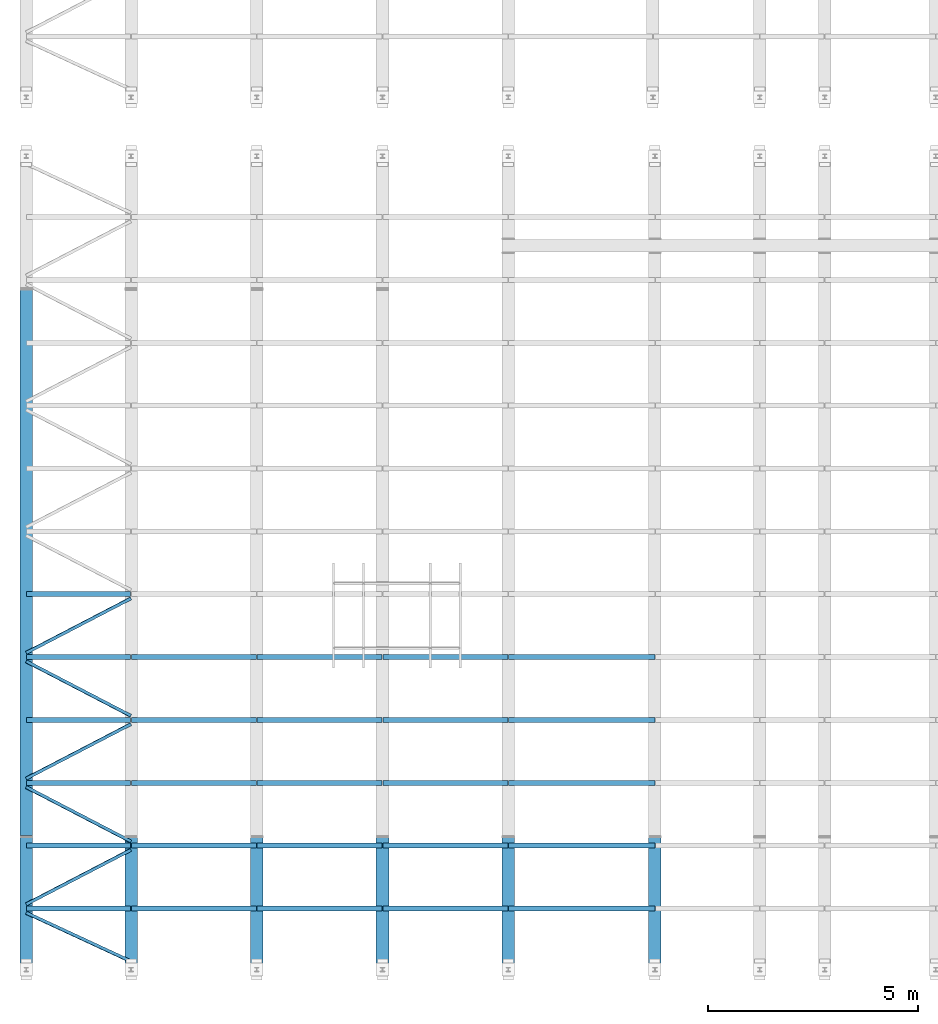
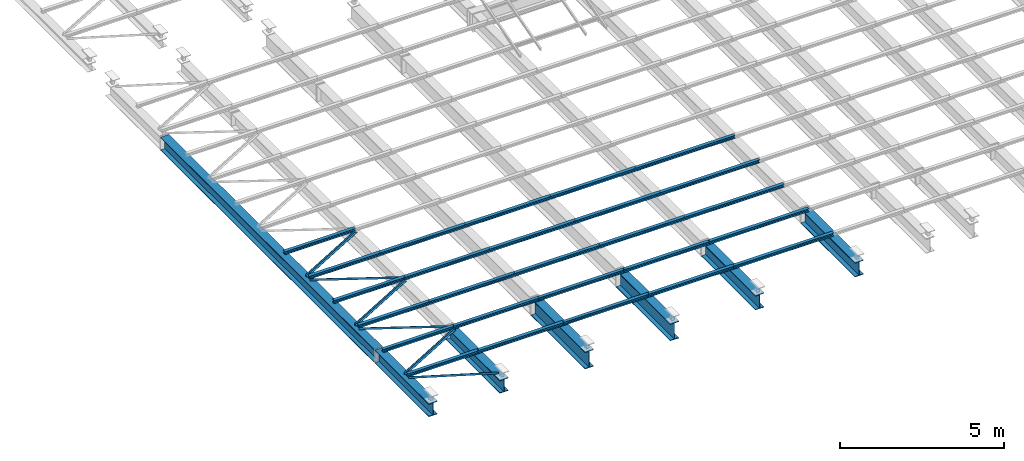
# One storey, part 36 of 139: 39 beams.
"""IFC2X3 building model written with IfcOpenShell, lengths in metres."""

from ifc_helpers import new_model, entity, si_unit, converted_unit, derived_unit, frame, origin, place, context, subcontext, project, spatial, polyline, outline, extrude, material, element, save


model = new_model("IFC2X3")

# Units and contexts
model_context = context("Model", 3, precision=1e-05, world=origin())
body_context = subcontext(model_context, "Body", "Model", "MODEL_VIEW")
ifc_project = project(units=[si_unit("LENGTHUNIT", "METRE"), si_unit("AREAUNIT", "SQUARE_METRE"), si_unit("VOLUMEUNIT", "CUBIC_METRE"), si_unit("MASSUNIT", "GRAM", prefix="KILO"), converted_unit("PLANEANGLEUNIT", "DEGREE", entity("IfcPlaneAngleMeasure", 0.0174532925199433), si_unit("PLANEANGLEUNIT", "RADIAN"), dimensions=[0, 0, 0, 0, 0, 0, 0]), derived_unit("THERMALTRANSMITTANCEUNIT", [(si_unit("POWERUNIT", "WATT"), 1), (si_unit("THERMODYNAMICTEMPERATUREUNIT", "KELVIN"), -1), (si_unit("LENGTHUNIT", "METRE"), -2)]), derived_unit("VOLUMETRICFLOWRATEUNIT", [(si_unit("LENGTHUNIT", "METRE"), 3), (converted_unit("TIMEUNIT", "hour", entity("IfcTimeMeasure", 3600.0), si_unit("TIMEUNIT", "SECOND"), dimensions=[0, 0, 1, 0, 0, 0, 0]), -1), (si_unit("LENGTHUNIT", "METRE"), -1)])], contexts=[model_context])

# Site, building, storey
site_placement = place(None, origin())
site = spatial("IfcSite", under=ifc_project, at=site_placement, Name="TWP_Speiseverteilzentrum SBW VZ II", CompositionType="ELEMENT")
building_placement = place(site_placement, origin())
building = spatial("IfcBuilding", under=site, at=building_placement, Name="Speiseverteilzentrum SBW VZ II", CompositionType="ELEMENT")
storey_placement = place(building_placement, frame((0.0, 0.0, 7.1307)))
storey = spatial("IfcBuildingStorey", under=building, at=storey_placement, Name="Wartung_FFB", CompositionType="ELEMENT", Elevation=7.1307)

# Beams
ifc_material_1 = material(Name="S235")
beam_1_placement = place(storey_placement, frame((10.5500000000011, 26.9020742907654, -0.435), z_axis=(0.0, 0.0, 1.0), x_axis=(-1.0, 0.0, 0.0)))
element("IfcBeam", 1, at=beam_1_placement, inside=storey, material=ifc_material_1, Name="Stahlträger", context=body_context, shape_type="SweptSolid", body=[
    extrude(outline(polyline([(-0.15, 0.245), (-0.15, 0.222), (-0.00599999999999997, 0.222), (-0.006, -0.222), (-0.15, -0.222), (-0.15, -0.245), (0.15, -0.245), (0.15, -0.222), (0.00600000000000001, -0.222), (0.00600000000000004, 0.222), (0.15, 0.222), (0.15, 0.245), (-0.15, 0.245)])), frame((0.0, 0.0, 0.0), z_axis=(0.0, 1.0, 0.0), x_axis=(-1.0, 0.0, 0.0)), (0.0, 0.0, 1.0), 13.014),
])
ifc_material_2 = material(Name="S235")
beam_2_placement = place(storey_placement, frame((10.5500000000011, 13.8380742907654, -0.435), z_axis=(0.0, 0.0, 1.0), x_axis=(-1.0, 0.0, 0.0)))
element("IfcBeam", 2, at=beam_2_placement, inside=storey, material=ifc_material_2, Name="Stahlträger", context=body_context, shape_type="SweptSolid", body=[
    extrude(outline(polyline([(-0.15, 0.245), (-0.15, 0.222), (-0.00599999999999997, 0.222), (-0.006, -0.222), (-0.15, -0.222), (-0.15, -0.245), (0.15, -0.245), (0.15, -0.222), (0.00600000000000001, -0.222), (0.00600000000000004, 0.222), (0.15, 0.222), (0.15, 0.245), (-0.15, 0.245)])), frame((0.0, 0.0, 0.0), z_axis=(0.0, 1.0, 0.0), x_axis=(-1.0, 0.0, 0.0)), (0.0, 0.0, 1.0), 3.29792570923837),
])
ifc_material_3 = material(Name="S235")
beam_3_placement = place(storey_placement, frame((13.0500000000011, 13.8380742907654, -0.435), z_axis=(0.0, 0.0, 1.0), x_axis=(-1.0, 0.0, 0.0)))
element("IfcBeam", 3, at=beam_3_placement, inside=storey, material=ifc_material_3, Name="Stahlträger", context=body_context, shape_type="SweptSolid", body=[
    extrude(outline(polyline([(-0.15, 0.245), (-0.15, 0.222), (-0.00599999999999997, 0.222), (-0.006, -0.222), (-0.15, -0.222), (-0.15, -0.245), (0.15, -0.245), (0.15, -0.222), (0.00600000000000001, -0.222), (0.00600000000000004, 0.222), (0.15, 0.222), (0.15, 0.245), (-0.15, 0.245)])), frame((0.0, 0.0, 0.0), z_axis=(0.0, 1.0, 0.0), x_axis=(-1.0, 0.0, 0.0)), (0.0, 0.0, 1.0), 3.29792570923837),
])
ifc_material_4 = material(Name="S235")
beam_4_placement = place(storey_placement, frame((16.0500000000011, 13.8380742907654, -0.51), z_axis=(0.0, 0.0, 1.0), x_axis=(-1.0, 0.0, 0.0)))
element("IfcBeam", 4, at=beam_4_placement, inside=storey, material=ifc_material_4, Name="Stahlträger", context=body_context, shape_type="SweptSolid", body=[
    extrude(outline(polyline([(-0.15, 0.32), (-0.15, 0.294), (-0.00675000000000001, 0.294), (-0.00675000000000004, -0.294), (-0.15, -0.294), (-0.15, -0.32), (0.15, -0.32), (0.15, -0.294), (0.00674999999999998, -0.294), (0.00675000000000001, 0.294), (0.15, 0.294), (0.15, 0.32), (-0.15, 0.32)])), frame((0.0, 0.0, 0.0), z_axis=(0.0, 1.0, 0.0), x_axis=(-1.0, 0.0, 0.0)), (0.0, 0.0, 1.0), 3.29792570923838),
])
ifc_material_5 = material(Name="S235")
beam_5_placement = place(storey_placement, frame((19.0500000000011, 13.8380742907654, -0.51), z_axis=(0.0, 0.0, 1.0), x_axis=(-1.0, 0.0, 0.0)))
element("IfcBeam", 5, at=beam_5_placement, inside=storey, material=ifc_material_5, Name="Stahlträger", context=body_context, shape_type="SweptSolid", body=[
    extrude(outline(polyline([(-0.15, 0.32), (-0.15, 0.294), (-0.00675000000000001, 0.294), (-0.00675000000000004, -0.294), (-0.15, -0.294), (-0.15, -0.32), (0.15, -0.32), (0.15, -0.294), (0.00674999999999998, -0.294), (0.00675000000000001, 0.294), (0.15, 0.294), (0.15, 0.32), (-0.15, 0.32)])), frame((0.0, 0.0, 0.0), z_axis=(0.0, 1.0, 0.0), x_axis=(-1.0, 0.0, 0.0)), (0.0, 0.0, 1.0), 3.29792570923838),
])
ifc_material_6 = material(Name="S235")
beam_6_placement = place(storey_placement, frame((25.5500000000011, 13.8380742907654, -0.46), z_axis=(0.0, 0.0, 1.0), x_axis=(-1.0, 0.0, 0.0)))
element("IfcBeam", 6, at=beam_6_placement, inside=storey, material=ifc_material_6, Name="Stahlträger", context=body_context, shape_type="SweptSolid", body=[
    extrude(outline(polyline([(-0.15, 0.27), (-0.15, 0.246), (-0.0062499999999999, 0.246), (-0.00624999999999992, -0.246), (-0.15, -0.246), (-0.15, -0.27), (0.15, -0.27), (0.15, -0.246), (0.00625000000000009, -0.246), (0.00625000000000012, 0.246), (0.15, 0.246), (0.15, 0.27), (-0.15, 0.27)])), frame((0.0, 0.0, 0.0), z_axis=(0.0, 1.0, 0.0), x_axis=(-1.0, 0.0, 0.0)), (0.0, 0.0, 1.0), 3.29792570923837),
])
ifc_material_7 = material(Name="S235")
beam_7_placement = place(storey_placement, frame((22.0500000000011, 13.8380742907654, -0.46), z_axis=(0.0, 0.0, 1.0), x_axis=(-1.0, 0.0, 0.0)))
element("IfcBeam", 7, at=beam_7_placement, inside=storey, material=ifc_material_7, Name="Stahlträger", context=body_context, shape_type="SweptSolid", body=[
    extrude(outline(polyline([(-0.15, 0.27), (-0.15, 0.246), (-0.0062499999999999, 0.246), (-0.00624999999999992, -0.246), (-0.15, -0.246), (-0.15, -0.27), (0.15, -0.27), (0.15, -0.246), (0.00625000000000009, -0.246), (0.00625000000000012, 0.246), (0.15, 0.246), (0.15, 0.27), (-0.15, 0.27)])), frame((0.0, 0.0, 0.0), z_axis=(0.0, 1.0, 0.0), x_axis=(-1.0, 0.0, 0.0)), (0.0, 0.0, 1.0), 3.29792570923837),
])
ifc_material_8 = material(Name="S235")
beam_8_placement = place(storey_placement, frame((10.5600000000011, 19.6450742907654, -0.133), z_axis=(0.0, 0.0, 1.0), x_axis=(0.0, -1.0, 0.0)))
element("IfcBeam", 8, at=beam_8_placement, inside=storey, material=ifc_material_8, Name="Nebenträger", context=body_context, shape_type="SweptSolid", body=[
    extrude(outline(polyline([(-0.06, 0.0570000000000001), (-0.06, 0.0490000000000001), (-0.00249999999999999, 0.0490000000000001), (-0.0025, -0.0489999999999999), (-0.06, -0.0489999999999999), (-0.06, -0.0569999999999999), (0.06, -0.0569999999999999), (0.06, -0.0489999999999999), (0.0025, -0.0489999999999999), (0.00250000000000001, 0.0490000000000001), (0.06, 0.0490000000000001), (0.06, 0.0570000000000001), (-0.06, 0.0570000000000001)])), frame((0.0, 0.0, 0.0), z_axis=(0.0, 1.0, 0.0), x_axis=(-1.0, 0.0, 0.0)), (0.0, 0.0, 1.0), 2.48000000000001),
])
ifc_material_9 = material(Name="S235")
beam_9_placement = place(storey_placement, frame((13.0600000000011, 18.1450742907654, -0.133), z_axis=(0.0, 0.0, 1.0), x_axis=(0.0, -1.0, 0.0)))
element("IfcBeam", 9, at=beam_9_placement, inside=storey, material=ifc_material_9, Name="Nebenträger", context=body_context, shape_type="SweptSolid", body=[
    extrude(outline(polyline([(-0.06, 0.0570000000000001), (-0.06, 0.0490000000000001), (-0.00249999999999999, 0.0490000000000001), (-0.0025, -0.0489999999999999), (-0.06, -0.0489999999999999), (-0.06, -0.0569999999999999), (0.06, -0.0569999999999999), (0.06, -0.0489999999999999), (0.0025, -0.0489999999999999), (0.00250000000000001, 0.0490000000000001), (0.06, 0.0490000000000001), (0.06, 0.0570000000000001), (-0.06, 0.0570000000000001)])), frame((0.0, 0.0, 0.0), z_axis=(0.0, 1.0, 0.0), x_axis=(-1.0, 0.0, 0.0)), (0.0, 0.0, 1.0), 2.98),
])
ifc_material_10 = material(Name="S235")
beam_10_placement = place(storey_placement, frame((16.0600000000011, 18.1450742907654, -0.133), z_axis=(0.0, 0.0, 1.0), x_axis=(0.0, -1.0, 0.0)))
element("IfcBeam", 10, at=beam_10_placement, inside=storey, material=ifc_material_10, Name="Nebenträger", context=body_context, shape_type="SweptSolid", body=[
    extrude(outline(polyline([(-0.06, 0.0570000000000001), (-0.06, 0.0490000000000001), (-0.00249999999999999, 0.0490000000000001), (-0.0025, -0.0489999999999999), (-0.06, -0.0489999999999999), (-0.06, -0.0569999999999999), (0.06, -0.0569999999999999), (0.06, -0.0489999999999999), (0.0025, -0.0489999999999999), (0.00250000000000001, 0.0490000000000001), (0.06, 0.0490000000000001), (0.06, 0.0570000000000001), (-0.06, 0.0570000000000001)])), frame((0.0, 0.0, 0.0), z_axis=(0.0, 1.0, 0.0), x_axis=(-1.0, 0.0, 0.0)), (0.0, 0.0, 1.0), 2.98),
])
ifc_material_11 = material(Name="S235")
beam_11_placement = place(storey_placement, frame((19.0600000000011, 18.1450742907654, -0.133), z_axis=(0.0, 0.0, 1.0), x_axis=(0.0, -1.0, 0.0)))
element("IfcBeam", 11, at=beam_11_placement, inside=storey, material=ifc_material_11, Name="Nebenträger", context=body_context, shape_type="SweptSolid", body=[
    extrude(outline(polyline([(-0.06, 0.0570000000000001), (-0.06, 0.0490000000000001), (-0.00249999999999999, 0.0490000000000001), (-0.0025, -0.0489999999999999), (-0.06, -0.0489999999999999), (-0.06, -0.0569999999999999), (0.06, -0.0569999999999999), (0.06, -0.0489999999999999), (0.0025, -0.0489999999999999), (0.00250000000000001, 0.0490000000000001), (0.06, 0.0490000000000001), (0.06, 0.0570000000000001), (-0.06, 0.0570000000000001)])), frame((0.0, 0.0, 0.0), z_axis=(0.0, 1.0, 0.0), x_axis=(-1.0, 0.0, 0.0)), (0.0, 0.0, 1.0), 2.98),
])
ifc_material_12 = material(Name="S235")
beam_12_placement = place(storey_placement, frame((10.5600000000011, 18.1450742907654, -0.133), z_axis=(0.0, 0.0, 1.0), x_axis=(0.0, -1.0, 0.0)))
element("IfcBeam", 12, at=beam_12_placement, inside=storey, material=ifc_material_12, Name="Nebenträger", context=body_context, shape_type="SweptSolid", body=[
    extrude(outline(polyline([(-0.06, 0.0570000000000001), (-0.06, 0.0490000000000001), (-0.00249999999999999, 0.0490000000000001), (-0.0025, -0.0489999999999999), (-0.06, -0.0489999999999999), (-0.06, -0.0569999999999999), (0.06, -0.0569999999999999), (0.06, -0.0489999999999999), (0.0025, -0.0489999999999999), (0.00250000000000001, 0.0490000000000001), (0.06, 0.0490000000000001), (0.06, 0.0570000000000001), (-0.06, 0.0570000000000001)])), frame((0.0, 0.0, 0.0), z_axis=(0.0, 1.0, 0.0), x_axis=(-1.0, 0.0, 0.0)), (0.0, 0.0, 1.0), 2.48000000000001),
])
ifc_material_13 = material(Name="S235")
beam_13_placement = place(storey_placement, frame((13.0600000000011, 16.6450742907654, -0.133), z_axis=(0.0, 0.0, 1.0), x_axis=(0.0, -1.0, 0.0)))
element("IfcBeam", 13, at=beam_13_placement, inside=storey, material=ifc_material_13, Name="Nebenträger", context=body_context, shape_type="SweptSolid", body=[
    extrude(outline(polyline([(-0.06, 0.0570000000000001), (-0.06, 0.0490000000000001), (-0.00249999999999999, 0.0490000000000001), (-0.0025, -0.0489999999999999), (-0.06, -0.0489999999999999), (-0.06, -0.0569999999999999), (0.06, -0.0569999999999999), (0.06, -0.0489999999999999), (0.0025, -0.0489999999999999), (0.00250000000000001, 0.0490000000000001), (0.06, 0.0490000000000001), (0.06, 0.0570000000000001), (-0.06, 0.0570000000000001)])), frame((0.0, 0.0, 0.0), z_axis=(0.0, 1.0, 0.0), x_axis=(-1.0, 0.0, 0.0)), (0.0, 0.0, 1.0), 2.98),
])
ifc_material_14 = material(Name="S235")
beam_14_placement = place(storey_placement, frame((16.0600000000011, 16.6450742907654, -0.133), z_axis=(0.0, 0.0, 1.0), x_axis=(0.0, -1.0, 0.0)))
element("IfcBeam", 14, at=beam_14_placement, inside=storey, material=ifc_material_14, Name="Nebenträger", context=body_context, shape_type="SweptSolid", body=[
    extrude(outline(polyline([(-0.06, 0.0570000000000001), (-0.06, 0.0490000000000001), (-0.00249999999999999, 0.0490000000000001), (-0.0025, -0.0489999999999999), (-0.06, -0.0489999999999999), (-0.06, -0.0569999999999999), (0.06, -0.0569999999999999), (0.06, -0.0489999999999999), (0.0025, -0.0489999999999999), (0.00250000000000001, 0.0490000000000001), (0.06, 0.0490000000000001), (0.06, 0.0570000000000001), (-0.06, 0.0570000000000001)])), frame((0.0, 0.0, 0.0), z_axis=(0.0, 1.0, 0.0), x_axis=(-1.0, 0.0, 0.0)), (0.0, 0.0, 1.0), 2.98),
])
ifc_material_15 = material(Name="S235")
beam_15_placement = place(storey_placement, frame((19.0600000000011, 16.6450742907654, -0.133), z_axis=(0.0, 0.0, 1.0), x_axis=(0.0, -1.0, 0.0)))
element("IfcBeam", 15, at=beam_15_placement, inside=storey, material=ifc_material_15, Name="Nebenträger", context=body_context, shape_type="SweptSolid", body=[
    extrude(outline(polyline([(-0.06, 0.0570000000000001), (-0.06, 0.0490000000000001), (-0.00249999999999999, 0.0490000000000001), (-0.0025, -0.0489999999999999), (-0.06, -0.0489999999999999), (-0.06, -0.0569999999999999), (0.06, -0.0569999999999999), (0.06, -0.0489999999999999), (0.0025, -0.0489999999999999), (0.00250000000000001, 0.0490000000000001), (0.06, 0.0490000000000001), (0.06, 0.0570000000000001), (-0.06, 0.0570000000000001)])), frame((0.0, 0.0, 0.0), z_axis=(0.0, 1.0, 0.0), x_axis=(-1.0, 0.0, 0.0)), (0.0, 0.0, 1.0), 2.98),
])
ifc_material_16 = material(Name="S235")
beam_16_placement = place(storey_placement, frame((10.5600000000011, 16.6450742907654, -0.133), z_axis=(0.0, 0.0, 1.0), x_axis=(0.0, -1.0, 0.0)))
element("IfcBeam", 16, at=beam_16_placement, inside=storey, material=ifc_material_16, Name="Nebenträger", context=body_context, shape_type="SweptSolid", body=[
    extrude(outline(polyline([(-0.06, 0.0570000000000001), (-0.06, 0.0490000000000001), (-0.00249999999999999, 0.0490000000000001), (-0.0025, -0.0489999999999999), (-0.06, -0.0489999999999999), (-0.06, -0.0569999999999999), (0.06, -0.0569999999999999), (0.06, -0.0489999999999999), (0.0025, -0.0489999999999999), (0.00250000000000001, 0.0490000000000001), (0.06, 0.0490000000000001), (0.06, 0.0570000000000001), (-0.06, 0.0570000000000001)])), frame((0.0, 0.0, 0.0), z_axis=(0.0, 1.0, 0.0), x_axis=(-1.0, 0.0, 0.0)), (0.0, 0.0, 1.0), 2.48000000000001),
])
ifc_material_17 = material(Name="S235")
beam_17_placement = place(storey_placement, frame((13.0600000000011, 15.1450742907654, -0.133), z_axis=(0.0, 0.0, 1.0), x_axis=(0.0, -1.0, 0.0)))
element("IfcBeam", 17, at=beam_17_placement, inside=storey, material=ifc_material_17, Name="Nebenträger", context=body_context, shape_type="SweptSolid", body=[
    extrude(outline(polyline([(-0.06, 0.0570000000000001), (-0.06, 0.0490000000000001), (-0.00249999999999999, 0.0490000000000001), (-0.0025, -0.0489999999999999), (-0.06, -0.0489999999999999), (-0.06, -0.0569999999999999), (0.06, -0.0569999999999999), (0.06, -0.0489999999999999), (0.0025, -0.0489999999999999), (0.00250000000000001, 0.0490000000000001), (0.06, 0.0490000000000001), (0.06, 0.0570000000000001), (-0.06, 0.0570000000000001)])), frame((0.0, 0.0, 0.0), z_axis=(0.0, 1.0, 0.0), x_axis=(-1.0, 0.0, 0.0)), (0.0, 0.0, 1.0), 2.98),
])
ifc_material_18 = material(Name="S235")
beam_18_placement = place(storey_placement, frame((16.0600000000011, 15.1450742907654, -0.133), z_axis=(0.0, 0.0, 1.0), x_axis=(0.0, -1.0, 0.0)))
element("IfcBeam", 18, at=beam_18_placement, inside=storey, material=ifc_material_18, Name="Nebenträger", context=body_context, shape_type="SweptSolid", body=[
    extrude(outline(polyline([(-0.06, 0.0570000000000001), (-0.06, 0.0490000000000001), (-0.00249999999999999, 0.0490000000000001), (-0.0025, -0.0489999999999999), (-0.06, -0.0489999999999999), (-0.06, -0.0569999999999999), (0.06, -0.0569999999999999), (0.06, -0.0489999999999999), (0.0025, -0.0489999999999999), (0.00250000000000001, 0.0490000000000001), (0.06, 0.0490000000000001), (0.06, 0.0570000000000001), (-0.06, 0.0570000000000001)])), frame((0.0, 0.0, 0.0), z_axis=(0.0, 1.0, 0.0), x_axis=(-1.0, 0.0, 0.0)), (0.0, 0.0, 1.0), 2.98),
])
ifc_material_19 = material(Name="S235")
beam_19_placement = place(storey_placement, frame((19.0600000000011, 15.1450742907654, -0.133), z_axis=(0.0, 0.0, 1.0), x_axis=(0.0, -1.0, 0.0)))
element("IfcBeam", 19, at=beam_19_placement, inside=storey, material=ifc_material_19, Name="Nebenträger", context=body_context, shape_type="SweptSolid", body=[
    extrude(outline(polyline([(-0.06, 0.0570000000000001), (-0.06, 0.0490000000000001), (-0.00249999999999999, 0.0490000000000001), (-0.0025, -0.0489999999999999), (-0.06, -0.0489999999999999), (-0.06, -0.0569999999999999), (0.06, -0.0569999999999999), (0.06, -0.0489999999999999), (0.0025, -0.0489999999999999), (0.00250000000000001, 0.0490000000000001), (0.06, 0.0490000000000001), (0.06, 0.0570000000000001), (-0.06, 0.0570000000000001)])), frame((0.0, 0.0, 0.0), z_axis=(0.0, 1.0, 0.0), x_axis=(-1.0, 0.0, 0.0)), (0.0, 0.0, 1.0), 2.98),
])
ifc_material_20 = material(Name="S235")
beam_20_placement = place(storey_placement, frame((10.5600000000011, 15.1450742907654, -0.133), z_axis=(0.0, 0.0, 1.0), x_axis=(0.0, -1.0, 0.0)))
element("IfcBeam", 20, at=beam_20_placement, inside=storey, material=ifc_material_20, Name="Nebenträger", context=body_context, shape_type="SweptSolid", body=[
    extrude(outline(polyline([(-0.06, 0.0570000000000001), (-0.06, 0.0490000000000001), (-0.00249999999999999, 0.0490000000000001), (-0.0025, -0.0489999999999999), (-0.06, -0.0489999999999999), (-0.06, -0.0569999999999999), (0.06, -0.0569999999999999), (0.06, -0.0489999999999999), (0.0025, -0.0489999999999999), (0.00250000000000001, 0.0490000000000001), (0.06, 0.0490000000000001), (0.06, 0.0570000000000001), (-0.06, 0.0570000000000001)])), frame((0.0, 0.0, 0.0), z_axis=(0.0, 1.0, 0.0), x_axis=(-1.0, 0.0, 0.0)), (0.0, 0.0, 1.0), 2.48000000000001),
])
ifc_material_21 = material(Name="S235")
beam_21_placement = place(storey_placement, frame((13.0600000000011, 13.6450742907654, -0.133), z_axis=(0.0, 0.0, 1.0), x_axis=(0.0, -1.0, 0.0)))
element("IfcBeam", 21, at=beam_21_placement, inside=storey, material=ifc_material_21, Name="Nebenträger", context=body_context, shape_type="SweptSolid", body=[
    extrude(outline(polyline([(-0.06, 0.0570000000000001), (-0.06, 0.0490000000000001), (-0.00249999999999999, 0.0490000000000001), (-0.0025, -0.0489999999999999), (-0.06, -0.0489999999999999), (-0.06, -0.0569999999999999), (0.06, -0.0569999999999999), (0.06, -0.0489999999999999), (0.0025, -0.0489999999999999), (0.00250000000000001, 0.0490000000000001), (0.06, 0.0490000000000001), (0.06, 0.0570000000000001), (-0.06, 0.0570000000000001)])), frame((0.0, 0.0, 0.0), z_axis=(0.0, 1.0, 0.0), x_axis=(-1.0, 0.0, 0.0)), (0.0, 0.0, 1.0), 2.98),
])
ifc_material_22 = material(Name="S235")
beam_22_placement = place(storey_placement, frame((16.0600000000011, 13.6450742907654, -0.133), z_axis=(0.0, 0.0, 1.0), x_axis=(0.0, -1.0, 0.0)))
element("IfcBeam", 22, at=beam_22_placement, inside=storey, material=ifc_material_22, Name="Nebenträger", context=body_context, shape_type="SweptSolid", body=[
    extrude(outline(polyline([(-0.06, 0.0570000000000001), (-0.06, 0.0490000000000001), (-0.00249999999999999, 0.0490000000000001), (-0.0025, -0.0489999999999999), (-0.06, -0.0489999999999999), (-0.06, -0.0569999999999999), (0.06, -0.0569999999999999), (0.06, -0.0489999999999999), (0.0025, -0.0489999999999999), (0.00250000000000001, 0.0490000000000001), (0.06, 0.0490000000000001), (0.06, 0.0570000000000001), (-0.06, 0.0570000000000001)])), frame((0.0, 0.0, 0.0), z_axis=(0.0, 1.0, 0.0), x_axis=(-1.0, 0.0, 0.0)), (0.0, 0.0, 1.0), 2.98),
])
ifc_material_23 = material(Name="S235")
beam_23_placement = place(storey_placement, frame((19.0600000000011, 13.6450742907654, -0.133), z_axis=(0.0, 0.0, 1.0), x_axis=(0.0, -1.0, 0.0)))
element("IfcBeam", 23, at=beam_23_placement, inside=storey, material=ifc_material_23, Name="Nebenträger", context=body_context, shape_type="SweptSolid", body=[
    extrude(outline(polyline([(-0.06, 0.0570000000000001), (-0.06, 0.0490000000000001), (-0.00249999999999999, 0.0490000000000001), (-0.0025, -0.0489999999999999), (-0.06, -0.0489999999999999), (-0.06, -0.0569999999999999), (0.06, -0.0569999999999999), (0.06, -0.0489999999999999), (0.0025, -0.0489999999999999), (0.00250000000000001, 0.0490000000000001), (0.06, 0.0490000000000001), (0.06, 0.0570000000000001), (-0.06, 0.0570000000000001)])), frame((0.0, 0.0, 0.0), z_axis=(0.0, 1.0, 0.0), x_axis=(-1.0, 0.0, 0.0)), (0.0, 0.0, 1.0), 2.98),
])
ifc_material_24 = material(Name="S235")
beam_24_placement = place(storey_placement, frame((10.5600000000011, 13.6450742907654, -0.133), z_axis=(0.0, 0.0, 1.0), x_axis=(0.0, -1.0, 0.0)))
element("IfcBeam", 24, at=beam_24_placement, inside=storey, material=ifc_material_24, Name="Nebenträger", context=body_context, shape_type="SweptSolid", body=[
    extrude(outline(polyline([(-0.06, 0.0570000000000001), (-0.06, 0.0490000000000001), (-0.00249999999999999, 0.0490000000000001), (-0.0025, -0.0489999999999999), (-0.06, -0.0489999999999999), (-0.06, -0.0569999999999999), (0.06, -0.0569999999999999), (0.06, -0.0489999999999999), (0.0025, -0.0489999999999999), (0.00250000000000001, 0.0490000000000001), (0.06, 0.0490000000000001), (0.06, 0.0570000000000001), (-0.06, 0.0570000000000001)])), frame((0.0, 0.0, 0.0), z_axis=(0.0, 1.0, 0.0), x_axis=(-1.0, 0.0, 0.0)), (0.0, 0.0, 1.0), 2.48000000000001),
])
ifc_material_25 = material(Name="S235")
beam_25_placement = place(storey_placement, frame((13.0600000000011, 12.1450742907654, -0.133), z_axis=(0.0, 0.0, 1.0), x_axis=(0.0, -1.0, 0.0)))
element("IfcBeam", 25, at=beam_25_placement, inside=storey, material=ifc_material_25, Name="Nebenträger", context=body_context, shape_type="SweptSolid", body=[
    extrude(outline(polyline([(-0.06, 0.0570000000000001), (-0.06, 0.0490000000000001), (-0.00249999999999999, 0.0490000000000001), (-0.0025, -0.0489999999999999), (-0.06, -0.0489999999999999), (-0.06, -0.0569999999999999), (0.06, -0.0569999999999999), (0.06, -0.0489999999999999), (0.0025, -0.0489999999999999), (0.00250000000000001, 0.0490000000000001), (0.06, 0.0490000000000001), (0.06, 0.0570000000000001), (-0.06, 0.0570000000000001)])), frame((0.0, 0.0, 0.0), z_axis=(0.0, 1.0, 0.0), x_axis=(-1.0, 0.0, 0.0)), (0.0, 0.0, 1.0), 2.98),
])
ifc_material_26 = material(Name="S235")
beam_26_placement = place(storey_placement, frame((16.0600000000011, 12.1450742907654, -0.133), z_axis=(0.0, 0.0, 1.0), x_axis=(0.0, -1.0, 0.0)))
element("IfcBeam", 26, at=beam_26_placement, inside=storey, material=ifc_material_26, Name="Nebenträger", context=body_context, shape_type="SweptSolid", body=[
    extrude(outline(polyline([(-0.06, 0.0570000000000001), (-0.06, 0.0490000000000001), (-0.00249999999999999, 0.0490000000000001), (-0.0025, -0.0489999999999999), (-0.06, -0.0489999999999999), (-0.06, -0.0569999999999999), (0.06, -0.0569999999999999), (0.06, -0.0489999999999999), (0.0025, -0.0489999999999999), (0.00250000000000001, 0.0490000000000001), (0.06, 0.0490000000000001), (0.06, 0.0570000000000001), (-0.06, 0.0570000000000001)])), frame((0.0, 0.0, 0.0), z_axis=(0.0, 1.0, 0.0), x_axis=(-1.0, 0.0, 0.0)), (0.0, 0.0, 1.0), 2.98),
])
ifc_material_27 = material(Name="S235")
beam_27_placement = place(storey_placement, frame((19.0600000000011, 12.1450742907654, -0.133), z_axis=(0.0, 0.0, 1.0), x_axis=(0.0, -1.0, 0.0)))
element("IfcBeam", 27, at=beam_27_placement, inside=storey, material=ifc_material_27, Name="Nebenträger", context=body_context, shape_type="SweptSolid", body=[
    extrude(outline(polyline([(-0.06, 0.0570000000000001), (-0.06, 0.0490000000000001), (-0.00249999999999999, 0.0490000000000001), (-0.0025, -0.0489999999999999), (-0.06, -0.0489999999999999), (-0.06, -0.0569999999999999), (0.06, -0.0569999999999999), (0.06, -0.0489999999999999), (0.0025, -0.0489999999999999), (0.00250000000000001, 0.0490000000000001), (0.06, 0.0490000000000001), (0.06, 0.0570000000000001), (-0.06, 0.0570000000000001)])), frame((0.0, 0.0, 0.0), z_axis=(0.0, 1.0, 0.0), x_axis=(-1.0, 0.0, 0.0)), (0.0, 0.0, 1.0), 2.98),
])
ifc_material_28 = material(Name="S235")
beam_28_placement = place(storey_placement, frame((10.5600000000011, 12.1450742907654, -0.133), z_axis=(0.0, 0.0, 1.0), x_axis=(0.0, -1.0, 0.0)))
element("IfcBeam", 28, at=beam_28_placement, inside=storey, material=ifc_material_28, Name="Nebenträger", context=body_context, shape_type="SweptSolid", body=[
    extrude(outline(polyline([(-0.06, 0.0570000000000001), (-0.06, 0.0490000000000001), (-0.00249999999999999, 0.0490000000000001), (-0.0025, -0.0489999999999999), (-0.06, -0.0489999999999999), (-0.06, -0.0569999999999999), (0.06, -0.0569999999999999), (0.06, -0.0489999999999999), (0.0025, -0.0489999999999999), (0.00250000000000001, 0.0490000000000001), (0.06, 0.0490000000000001), (0.06, 0.0570000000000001), (-0.06, 0.0570000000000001)])), frame((0.0, 0.0, 0.0), z_axis=(0.0, 1.0, 0.0), x_axis=(-1.0, 0.0, 0.0)), (0.0, 0.0, 1.0), 2.48000000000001),
])
ifc_material_29 = material(Name="S235")
beam_29_placement = place(storey_placement, frame((22.0600000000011, 18.1450742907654, -0.133), z_axis=(0.0, 0.0, 1.0), x_axis=(0.0, -1.0, 0.0)))
element("IfcBeam", 29, at=beam_29_placement, inside=storey, material=ifc_material_29, Name="Nebenträger", context=body_context, shape_type="SweptSolid", body=[
    extrude(outline(polyline([(-0.06, 0.0570000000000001), (-0.06, 0.0490000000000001), (-0.00249999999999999, 0.0490000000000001), (-0.0025, -0.0489999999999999), (-0.06, -0.0489999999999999), (-0.06, -0.0569999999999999), (0.06, -0.0569999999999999), (0.06, -0.0489999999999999), (0.0025, -0.0489999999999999), (0.00250000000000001, 0.0490000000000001), (0.06, 0.0490000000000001), (0.06, 0.0570000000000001), (-0.06, 0.0570000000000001)])), frame((0.0, 0.0, 0.0), z_axis=(0.0, 1.0, 0.0), x_axis=(-1.0, 0.0, 0.0)), (0.0, 0.0, 1.0), 3.48625),
])
ifc_material_30 = material(Name="S235")
beam_30_placement = place(storey_placement, frame((22.0600000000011, 16.6450742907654, -0.133), z_axis=(0.0, 0.0, 1.0), x_axis=(0.0, -1.0, 0.0)))
element("IfcBeam", 30, at=beam_30_placement, inside=storey, material=ifc_material_30, Name="Nebenträger", context=body_context, shape_type="SweptSolid", body=[
    extrude(outline(polyline([(-0.06, 0.0570000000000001), (-0.06, 0.0490000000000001), (-0.00249999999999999, 0.0490000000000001), (-0.0025, -0.0489999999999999), (-0.06, -0.0489999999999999), (-0.06, -0.0569999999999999), (0.06, -0.0569999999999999), (0.06, -0.0489999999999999), (0.0025, -0.0489999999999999), (0.00250000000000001, 0.0490000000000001), (0.06, 0.0490000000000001), (0.06, 0.0570000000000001), (-0.06, 0.0570000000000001)])), frame((0.0, 0.0, 0.0), z_axis=(0.0, 1.0, 0.0), x_axis=(-1.0, 0.0, 0.0)), (0.0, 0.0, 1.0), 3.48625),
])
ifc_material_31 = material(Name="S235")
beam_31_placement = place(storey_placement, frame((22.0600000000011, 15.1450742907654, -0.133), z_axis=(0.0, 0.0, 1.0), x_axis=(0.0, -1.0, 0.0)))
element("IfcBeam", 31, at=beam_31_placement, inside=storey, material=ifc_material_31, Name="Nebenträger", context=body_context, shape_type="SweptSolid", body=[
    extrude(outline(polyline([(-0.06, 0.0570000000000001), (-0.06, 0.0490000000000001), (-0.00249999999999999, 0.0490000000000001), (-0.0025, -0.0489999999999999), (-0.06, -0.0489999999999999), (-0.06, -0.0569999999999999), (0.06, -0.0569999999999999), (0.06, -0.0489999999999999), (0.0025, -0.0489999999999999), (0.00250000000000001, 0.0490000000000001), (0.06, 0.0490000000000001), (0.06, 0.0570000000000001), (-0.06, 0.0570000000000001)])), frame((0.0, 0.0, 0.0), z_axis=(0.0, 1.0, 0.0), x_axis=(-1.0, 0.0, 0.0)), (0.0, 0.0, 1.0), 3.48625),
])
ifc_material_32 = material(Name="S235")
beam_32_placement = place(storey_placement, frame((22.0600000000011, 13.6450742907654, -0.133), z_axis=(0.0, 0.0, 1.0), x_axis=(0.0, -1.0, 0.0)))
element("IfcBeam", 32, at=beam_32_placement, inside=storey, material=ifc_material_32, Name="Nebenträger", context=body_context, shape_type="SweptSolid", body=[
    extrude(outline(polyline([(-0.06, 0.0570000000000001), (-0.06, 0.0490000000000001), (-0.00249999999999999, 0.0490000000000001), (-0.0025, -0.0489999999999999), (-0.06, -0.0489999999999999), (-0.06, -0.0569999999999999), (0.06, -0.0569999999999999), (0.06, -0.0489999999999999), (0.0025, -0.0489999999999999), (0.00250000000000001, 0.0490000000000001), (0.06, 0.0490000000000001), (0.06, 0.0570000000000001), (-0.06, 0.0570000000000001)])), frame((0.0, 0.0, 0.0), z_axis=(0.0, 1.0, 0.0), x_axis=(-1.0, 0.0, 0.0)), (0.0, 0.0, 1.0), 3.48625),
])
ifc_material_33 = material(Name="S235")
beam_33_placement = place(storey_placement, frame((22.0600000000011, 12.1450742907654, -0.133), z_axis=(0.0, 0.0, 1.0), x_axis=(0.0, -1.0, 0.0)))
element("IfcBeam", 33, at=beam_33_placement, inside=storey, material=ifc_material_33, Name="Nebenträger", context=body_context, shape_type="SweptSolid", body=[
    extrude(outline(polyline([(-0.06, 0.0570000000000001), (-0.06, 0.0490000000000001), (-0.00249999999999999, 0.0490000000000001), (-0.0025, -0.0489999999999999), (-0.06, -0.0489999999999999), (-0.06, -0.0569999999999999), (0.06, -0.0569999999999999), (0.06, -0.0489999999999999), (0.0025, -0.0489999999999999), (0.00250000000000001, 0.0490000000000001), (0.06, 0.0490000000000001), (0.06, 0.0570000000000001), (-0.06, 0.0570000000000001)])), frame((0.0, 0.0, 0.0), z_axis=(0.0, 1.0, 0.0), x_axis=(-1.0, 0.0, 0.0)), (0.0, 0.0, 1.0), 3.48625),
])
ifc_material_34 = material(Name="S235")
beam_34_placement = place(storey_placement, frame((10.5365784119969, 18.2618927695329, -0.167052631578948), z_axis=(0.0, 0.0, 1.0), x_axis=(0.4612662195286, -0.887261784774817, 0.0)))
element("IfcBeam", 34, at=beam_34_placement, inside=storey, material=ifc_material_34, Name="Kreuzverband", context=body_context, shape_type="SweptSolid", body=[
    extrude(outline(polyline([(0.0229473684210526, -0.0229473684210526), (0.0229473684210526, 0.0570526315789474), (0.0149473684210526, 0.0570526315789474), (0.0149473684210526, -0.0149473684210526), (-0.0570526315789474, -0.0149473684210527), (-0.0570526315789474, -0.0229473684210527), (0.0229473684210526, -0.0229473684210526)])), frame((0.0, 0.0, 0.0), z_axis=(0.0, 1.00000000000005, 0.0), x_axis=(-1.0, 0.0, 0.0)), (0.0, 0.0, 1.0), 2.82000000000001),
])
ifc_material_35 = material(Name="S235")
beam_35_placement = place(storey_placement, frame((10.5365784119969, 18.0282558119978, -0.167052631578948), z_axis=(0.0, 0.0, 1.0), x_axis=(-0.4612662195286, -0.887261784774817, 0.0)))
element("IfcBeam", 35, at=beam_35_placement, inside=storey, material=ifc_material_35, Name="Kreuzverband", context=body_context, shape_type="SweptSolid", body=[
    extrude(outline(polyline([(0.0570526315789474, -0.0229473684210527), (0.0570526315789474, -0.0149473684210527), (-0.0149473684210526, -0.0149473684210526), (-0.0149473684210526, 0.0570526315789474), (-0.0229473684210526, 0.0570526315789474), (-0.0229473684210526, -0.0229473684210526), (0.0570526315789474, -0.0229473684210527)])), frame((0.0, 0.0, 0.0), z_axis=(0.0, 1.00000000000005, 0.0), x_axis=(-1.0, 0.0, 0.0)), (0.0, 0.0, 1.0), 2.82000000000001),
])
ifc_material_36 = material(Name="S235")
beam_36_placement = place(storey_placement, frame((10.5365784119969, 15.2618927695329, -0.167052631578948), z_axis=(0.0, 0.0, 1.0), x_axis=(0.4612662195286, -0.887261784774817, 0.0)))
element("IfcBeam", 36, at=beam_36_placement, inside=storey, material=ifc_material_36, Name="Kreuzverband", context=body_context, shape_type="SweptSolid", body=[
    extrude(outline(polyline([(0.0229473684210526, -0.0229473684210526), (0.0229473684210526, 0.0570526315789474), (0.0149473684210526, 0.0570526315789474), (0.0149473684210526, -0.0149473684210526), (-0.0570526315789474, -0.0149473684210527), (-0.0570526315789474, -0.0229473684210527), (0.0229473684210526, -0.0229473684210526)])), frame((0.0, 0.0, 0.0), z_axis=(0.0, 1.00000000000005, 0.0), x_axis=(-1.0, 0.0, 0.0)), (0.0, 0.0, 1.0), 2.82000000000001),
])
ifc_material_37 = material(Name="S235")
beam_37_placement = place(storey_placement, frame((10.5365784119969, 15.0282558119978, -0.167052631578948), z_axis=(0.0, 0.0, 1.0), x_axis=(-0.4612662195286, -0.887261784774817, 0.0)))
element("IfcBeam", 37, at=beam_37_placement, inside=storey, material=ifc_material_37, Name="Kreuzverband", context=body_context, shape_type="SweptSolid", body=[
    extrude(outline(polyline([(0.0570526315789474, -0.0229473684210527), (0.0570526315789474, -0.0149473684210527), (-0.0149473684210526, -0.0149473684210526), (-0.0149473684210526, 0.0570526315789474), (-0.0229473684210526, 0.0570526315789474), (-0.0229473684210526, -0.0229473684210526), (0.0570526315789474, -0.0229473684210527)])), frame((0.0, 0.0, 0.0), z_axis=(0.0, 1.00000000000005, 0.0), x_axis=(-1.0, 0.0, 0.0)), (0.0, 0.0, 1.0), 2.82000000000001),
])
ifc_material_38 = material(Name="S235")
beam_38_placement = place(storey_placement, frame((10.5365784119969, 12.2618927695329, -0.167052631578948), z_axis=(0.0, 0.0, 1.0), x_axis=(0.4612662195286, -0.887261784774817, 0.0)))
element("IfcBeam", 38, at=beam_38_placement, inside=storey, material=ifc_material_38, Name="Kreuzverband", context=body_context, shape_type="SweptSolid", body=[
    extrude(outline(polyline([(0.0229473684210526, -0.0229473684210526), (0.0229473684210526, 0.0570526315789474), (0.0149473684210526, 0.0570526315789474), (0.0149473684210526, -0.0149473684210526), (-0.0570526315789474, -0.0149473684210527), (-0.0570526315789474, -0.0229473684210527), (0.0229473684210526, -0.0229473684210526)])), frame((0.0, 0.0, 0.0), z_axis=(0.0, 1.00000000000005, 0.0), x_axis=(-1.0, 0.0, 0.0)), (0.0, 0.0, 1.0), 2.82000000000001),
])
ifc_material_39 = material(Name="S235")
beam_39_placement = place(storey_placement, frame((10.5388981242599, 12.0271158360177, -0.167052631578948), z_axis=(0.0, 0.0, 1.0), x_axis=(-0.420607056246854, -0.907242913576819, 0.0)))
element("IfcBeam", 39, at=beam_39_placement, inside=storey, material=ifc_material_39, Name="Kreuzverband", context=body_context, shape_type="SweptSolid", body=[
    extrude(outline(polyline([(0.0570526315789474, -0.0229473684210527), (0.0570526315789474, -0.0149473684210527), (-0.0149473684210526, -0.0149473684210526), (-0.0149473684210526, 0.0570526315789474), (-0.0229473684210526, 0.0570526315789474), (-0.0229473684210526, -0.0229473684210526), (0.0570526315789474, -0.0229473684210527)])), frame((0.0, 0.0, 0.0), z_axis=(0.0, 1.00000000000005, 0.0), x_axis=(-1.0, 0.0, 0.0)), (0.0, 0.0, 1.0), 2.76000000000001),
])

save(model, "model.ifc")
